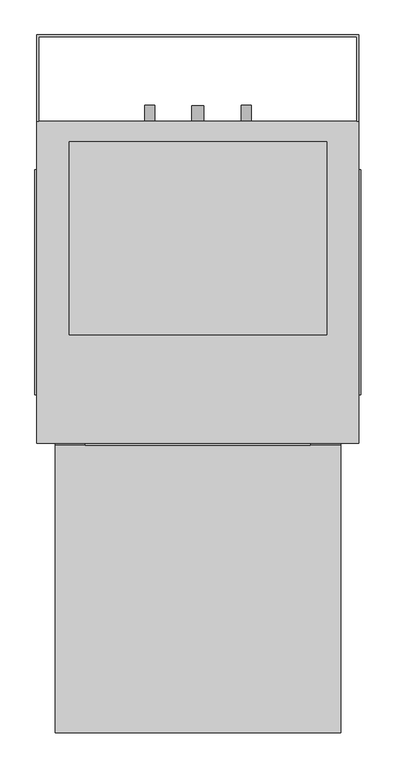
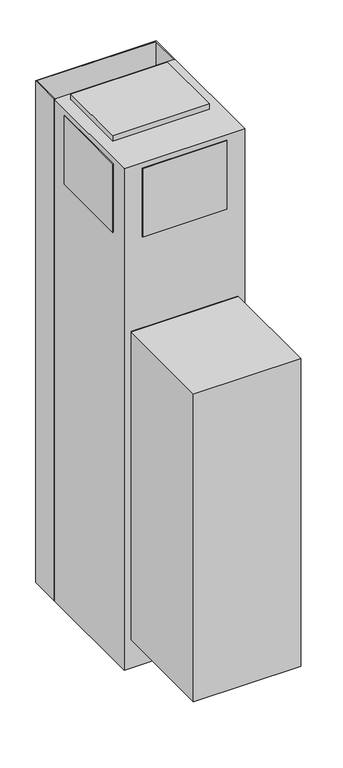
"""IFC4 building model written with IfcOpenShell, lengths in millimetres: proxy geometry, Exposed_Modular_Fan_Coil_Unit_-_MXY_-_IEC_-_2-Pipe_Cool-EHeat_-_NoRisers_2022 : Size 06 - 277v/60Hz/1Ph - 4 Row 6.0kW."""

from ifc_helpers import new_model, si_unit, point, frame, frame_2d, origin, origin_with_axes, place, context, project, spatial, polyline, circle_curve, trimmed, segment, composite_curve, outline, extrude, source, transform, mapped, element, save


def mechanical_equipment_1101cd26(model_context):
    return source(origin(), model_context, "Body", "SweptSolid", [
        extrude(outline(polyline([(1356.1480703, 516.0118862), (1346.2, 548.1852728), (1488.3709244, 548.1852728), (1465.3489183, 516.0118862), (1356.1480703, 516.0118862)])), frame((0.0, -269.875, 0.0), z_axis=(0.0, 1.0, 0.0), x_axis=(0.0, 0.0, 1.0)), (0.0, 0.0, 1.0), 3.175),
        extrude(outline(polyline([(1435.1473557, 554.9436058), (1431.9449632, 581.025), (1461.1738042, 581.025), (1469.2382193, 554.9436058), (1435.1473557, 554.9436058)])), frame((0.0, -269.875, 0.0), z_axis=(0.0, 1.0, 0.0), x_axis=(0.0, 0.0, 1.0)), (0.0, 0.0, 1.0), 3.175),
        extrude(outline(polyline([(1383.2838288, 581.025), (1379.6183279, 554.9436058), (1346.2, 554.9436058), (1354.8342372, 581.025), (1383.2838288, 581.025)])), frame((0.0, -269.875, 0.0), z_axis=(0.0, 1.0, 0.0), x_axis=(0.0, 0.0, 1.0)), (0.0, 0.0, 1.0), 3.175),
        extrude(outline(polyline([(1422.5989903, 581.025), (1424.8808166, 554.9436058), (1388.9432681, 554.9436058), (1391.6845331, 581.025), (1422.5989903, 581.025)])), frame((0.0, -269.875, 0.0), z_axis=(0.0, 1.0, 0.0), x_axis=(0.0, 0.0, 1.0)), (0.0, 0.0, 1.0), 3.175),
        extrude(outline(polyline([(631.825, -266.7), (631.825, -720.725), (180.975, -720.725), (180.975, -266.7), (631.825, -266.7)])), frame((0.0, 0.0, 127.0), z_axis=(0.0, 0.0, 1.0), x_axis=(1.0, 0.0, 0.0)), (0.0, 0.0, 1.0), 1371.6),
        extrude(outline(polyline([(152.4, 381.0), (660.4, 381.0), (660.4, 244.475), (657.225, 244.475), (657.225, 377.825), (155.575, 377.825), (155.575, 244.475), (152.4, 244.475), (152.4, 381.0)])), origin_with_axes(), (0.0, 0.0, 1.0), 2235.2),
        extrude(outline(composite_curve([segment(trimmed(circle_curve(frame_2d((990.6, 482.6)), 7.9375), [point((990.6, 490.5375))], [point((990.6, 474.6625))], False, "CARTESIAN"), True, "CONTINUOUS"), segment(trimmed(circle_curve(frame_2d((990.6, 482.6)), 7.9375), [point((990.6, 474.6625))], [point((990.6, 490.5375))], False, "CARTESIAN"), True, "CONTINUOUS")], self_intersect=False)), frame((0.0, 244.475, 0.0), z_axis=(0.0, 1.0, 0.0), x_axis=(0.0, 0.0, 1.0)), (0.0, 0.0, 1.0), 25.4),
        extrude(outline(composite_curve([segment(trimmed(circle_curve(frame_2d((990.6, 330.2)), 7.9375), [point((990.6, 338.1375))], [point((990.6, 322.2625))], False, "CARTESIAN"), True, "CONTINUOUS"), segment(trimmed(circle_curve(frame_2d((990.6, 330.2)), 7.9375), [point((990.6, 322.2625))], [point((990.6, 338.1375))], False, "CARTESIAN"), True, "CONTINUOUS")], self_intersect=False)), frame((0.0, 244.475, 0.0), z_axis=(0.0, 1.0, 0.0), x_axis=(0.0, 0.0, 1.0)), (0.0, 0.0, 1.0), 25.4),
        extrude(outline(composite_curve([segment(trimmed(circle_curve(frame_2d((127.0, 406.4)), 9.525), [point((127.0, 415.925))], [point((127.0, 396.875))], False, "CARTESIAN"), True, "CONTINUOUS"), segment(trimmed(circle_curve(frame_2d((127.0, 406.4)), 9.525), [point((127.0, 396.875))], [point((127.0, 415.925))], False, "CARTESIAN"), True, "CONTINUOUS")], self_intersect=False)), frame((0.0, 244.475, 0.0), z_axis=(0.0, 1.0, 0.0), x_axis=(0.0, 0.0, 1.0)), (0.0, 0.0, 1.0), 25.4),
        extrude(outline(polyline([(631.825, -266.7), (180.975, -266.7), (180.975, -263.525), (631.825, -263.525), (631.825, -266.7)])), frame((0.0, 0.0, 127.0), z_axis=(0.0, 0.0, 1.0), x_axis=(1.0, 0.0, 0.0)), (0.0, 0.0, 1.0), 1371.6),
        extrude(outline(polyline([(663.575, 168.275), (663.575, -187.325), (660.4, -187.325), (660.4, 168.275), (663.575, 168.275)])), frame((0.0, 0.0, 1905.0), z_axis=(0.0, 0.0, 1.0), x_axis=(1.0, 0.0, 0.0)), (0.0, 0.0, 1.0), 304.8),
        extrude(outline(polyline([(149.225, -187.325), (149.225, 168.275), (152.4, 168.275), (152.4, -187.325), (149.225, -187.325)])), frame((0.0, 0.0, 1905.0), z_axis=(0.0, 0.0, 1.0), x_axis=(1.0, 0.0, 0.0)), (0.0, 0.0, 1.0), 304.8),
        extrude(outline(polyline([(584.2, -266.7), (228.6, -266.7), (228.6, -263.525), (584.2, -263.525), (584.2, -266.7)])), frame((0.0, 0.0, 1905.0), z_axis=(0.0, 0.0, 1.0), x_axis=(1.0, 0.0, 0.0)), (0.0, 0.0, 1.0), 304.8),
        extrude(outline(polyline([(609.6, 212.725), (609.6, -92.075), (203.2, -92.075), (203.2, 212.725), (609.6, 212.725)])), frame((0.0, 0.0, 2235.2), z_axis=(0.0, 0.0, 1.0), x_axis=(1.0, 0.0, 0.0)), (0.0, 0.0, 1.0), 25.4),
        extrude(outline(polyline([(660.4, 244.475), (660.4, -263.525), (152.4, -263.525), (152.4, 244.475), (660.4, 244.475)])), origin_with_axes(), (0.0, 0.0, 1.0), 2235.2),
    ])


if __name__ == "__main__":
    model = new_model("IFC4")
    model_context = context("Model", 3, world=origin())
    ifc_project = project(units=[si_unit("LENGTHUNIT", "METRE", prefix="MILLI")], contexts=[model_context])
    site = spatial("IfcSite", under=ifc_project)
    building = spatial("IfcBuilding", under=site)
    placement = place(None, origin())
    mechanical_equipment_shape = mechanical_equipment_1101cd26(model_context)
    element("IfcBuildingElementProxy", 1, Name="Exposed_Modular_Fan_Coil_Unit_-_MXY_-_IEC_-_2-Pipe_Cool-EHeat_-_NoRisers_2022 : Size 06 - 277v/60Hz/1Ph - 4 Row 6.0kW", ObjectType="Exposed_Modular_Fan_Coil_Unit_-_MXY_-_IEC_-_2-Pipe_Cool-EHeat_-_NoRisers_2022 : Size 06 - 277v/60Hz/1Ph - 4 Row 6.0kW", at=placement, inside=building, context=model_context, shape_type="MappedRepresentation", body=[
        mapped(mechanical_equipment_shape, transform((0.0, 0.0, 0.0), x_axis=(1.0, 0.0, 0.0), y_axis=(0.0, 1.0, 0.0), z_axis=(0.0, 0.0, 1.0))),
    ])
    save(model, "model.ifc")
